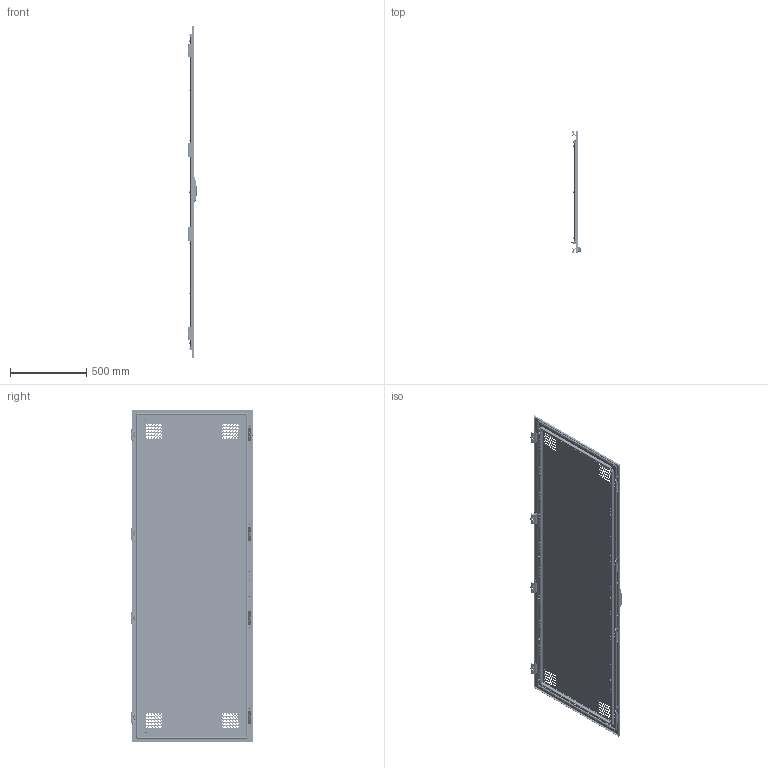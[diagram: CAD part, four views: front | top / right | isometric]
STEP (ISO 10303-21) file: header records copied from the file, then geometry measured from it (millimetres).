
FILE_DESCRIPTION(('STEP AP203'), '1');
FILE_NAME('3410.Ï Äâåðü ïåðôîðèðîâàííàÿ ÑÁ', '', ('UNSPECIFIED'), ('UNSPECIFIED'), 'C3D Converter', 'C3D Toolkit', '');
FILE_SCHEMA(('CONFIG_CONTROL_DESIGN'));
Length unit declared in the file: millimetre
Products named in the file (29): 3410.П.220.80 СБ; 3420.П; 3423; 3422.01; 3412; 3411; 868-000A_ASM; 868-000B; 868-000C; TS003-3; TS003-2; ёЗ豹X2\0435\X0\; 3009.05; 3009.05.01; 3622.01; 3009.08; 3009.08.01
Assembly tree (132 placements, depth 4):
  3410.П.220.80 СБ
    3420.П
      3423
      3422.01  x4
      (unnamed)  x18
      (unnamed)  x8
      (unnamed)  x2
    3412  x2
    3411  x2
    (unnamed)  x4
    (unnamed)  x20
    (unnamed)  x28
    (unnamed)  x8
    (unnamed)
      868-000A_ASM
        868-000B
        868-000C
        TS003-3
        TS003-2
        ёЗ豹X2\0435\X0\
      TS003-2
    (unnamed)  x2
    3009.05  x4
      3009.05.01
      (unnamed)
      (unnamed)
    3622.01  x4
    (unnamed)  x4
    3009.08  x4
      3009.08.01
      (unnamed)
      (unnamed)
Bounding box: 59.5 x 797.03 x 2171 mm (x, y, z)
Volume: 3391367.8 mm3; surface area: 4856989.4 mm2
Topology: 147 solids, 147 shells, 5105 faces, 13016 edges, 8416 vertices
Faces by surface type: plane 2676, cylinder 1558, cone 582, bspline 191, torus 87, sphere 11
Full cylindrical faces by diameter (mm): 0.5 x28, 4.134 x8, 4.3 x2, 4.5 x192, 4.917 x28, 5 x24, 5.2 x2, 5.8 x8, 6 x40, 6.1 x4, 6.6 x28, 6.75 x28, 7 x8, 7.3 x28, 7.5 x28, 8 x440, 8.3 x16, 8.5 x2, 9.2 x18, 10 x29, 10.5 x4, 12 x32, 13 x1, 15 x1, 20.7 x2, 21 x1
Entity records: 86242 total; most frequent: CARTESIAN_POINT 33563, DIRECTION 9250, ORIENTED_EDGE 8730, EDGE_CURVE 4365, EDGE_LOOP 3705, AXIS2_PLACEMENT_3D 3695, VERTEX_POINT 3188, FACE_BOUND 2443
